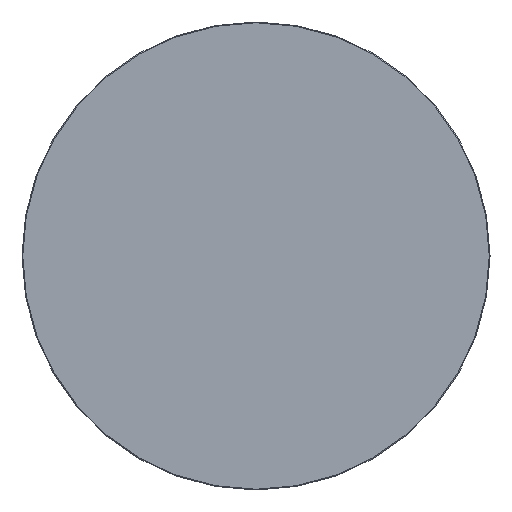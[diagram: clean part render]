
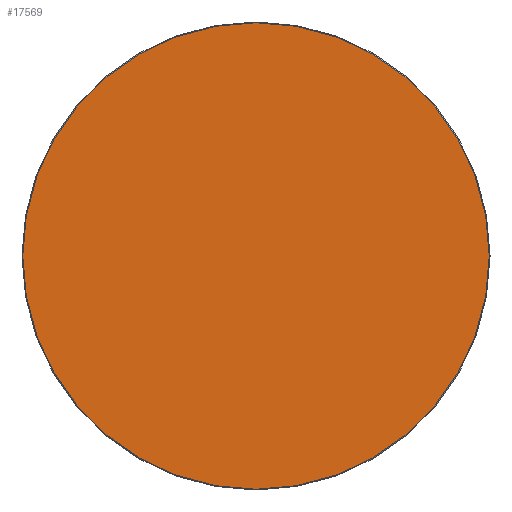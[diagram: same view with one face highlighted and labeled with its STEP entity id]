
A CAD part, top view. The second image highlights one B-rep face of the part: STEP entity #17569.
In plain terms, the highlighted planar face has unit normal (0, 0, 1).
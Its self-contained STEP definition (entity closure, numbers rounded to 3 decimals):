
#17494=CARTESIAN_POINT('',(0.,0.,20.));
#17495=DIRECTION('',(1.,0.,0.));
#17496=DIRECTION('',(0.,0.,1.));
#17497=AXIS2_PLACEMENT_3D('',#17494,#17496,#17495);
#17498=PLANE('',#17497);
#17499=CARTESIAN_POINT('',(-0.5,-448.5,20.));
#17500=VERTEX_POINT('',#17499);
#17501=CARTESIAN_POINT('',(0.5,-448.5,20.));
#17502=VERTEX_POINT('',#17501);
#17503=CARTESIAN_POINT('',(-0.5,-448.5,20.));
#17504=DIRECTION('',(1.,0.,0.));
#17505=VECTOR('',#17504,1.);
#17506=LINE('',#17503,#17505);
#17507=EDGE_CURVE('',#17500,#17502,#17506,.T.);
#17508=ORIENTED_EDGE('E105',*,*,#17507,.T.);
#17509=CARTESIAN_POINT('',(448.5,-0.5,20.));
#17510=VERTEX_POINT('',#17509);
#17511=CARTESIAN_POINT('',(0.5,-0.5,20.));
#17512=DIRECTION('',(0.,-1.,0.));
#17513=DIRECTION('',(0.,-0.,1.));
#17514=AXIS2_PLACEMENT_3D('',#17511,#17513,#17512);
#17515=CIRCLE('',#17514,448.);
#17516=EDGE_CURVE('',#17502,#17510,#17515,.T.);
#17517=ORIENTED_EDGE('E107',*,*,#17516,.T.);
#17518=CARTESIAN_POINT('',(448.5,0.5,20.));
#17519=VERTEX_POINT('',#17518);
#17520=CARTESIAN_POINT('',(448.5,-0.5,20.));
#17521=DIRECTION('',(0.,1.,0.));
#17522=VECTOR('',#17521,1.);
#17523=LINE('',#17520,#17522);
#17524=EDGE_CURVE('',#17510,#17519,#17523,.T.);
#17525=ORIENTED_EDGE('E109',*,*,#17524,.T.);
#17526=CARTESIAN_POINT('',(0.5,448.5,20.));
#17527=VERTEX_POINT('',#17526);
#17528=CARTESIAN_POINT('',(0.5,0.5,20.));
#17529=DIRECTION('',(1.,0.,0.));
#17530=DIRECTION('',(0.,0.,1.));
#17531=AXIS2_PLACEMENT_3D('',#17528,#17530,#17529);
#17532=CIRCLE('',#17531,448.);
#17533=EDGE_CURVE('',#17519,#17527,#17532,.T.);
#17534=ORIENTED_EDGE('E111',*,*,#17533,.T.);
#17535=CARTESIAN_POINT('',(-0.5,448.5,20.));
#17536=VERTEX_POINT('',#17535);
#17537=CARTESIAN_POINT('',(0.5,448.5,20.));
#17538=DIRECTION('',(-1.,0.,0.));
#17539=VECTOR('',#17538,1.);
#17540=LINE('',#17537,#17539);
#17541=EDGE_CURVE('',#17527,#17536,#17540,.T.);
#17542=ORIENTED_EDGE('E113',*,*,#17541,.T.);
#17543=CARTESIAN_POINT('',(-448.5,0.5,20.));
#17544=VERTEX_POINT('',#17543);
#17545=CARTESIAN_POINT('',(-0.5,0.5,20.));
#17546=DIRECTION('',(0.,1.,0.));
#17547=DIRECTION('',(0.,0.,1.));
#17548=AXIS2_PLACEMENT_3D('',#17545,#17547,#17546);
#17549=CIRCLE('',#17548,448.);
#17550=EDGE_CURVE('',#17536,#17544,#17549,.T.);
#17551=ORIENTED_EDGE('E115',*,*,#17550,.T.);
#17552=CARTESIAN_POINT('',(-448.5,-0.5,20.));
#17553=VERTEX_POINT('',#17552);
#17554=CARTESIAN_POINT('',(-448.5,0.5,20.));
#17555=DIRECTION('',(0.,-1.,0.));
#17556=VECTOR('',#17555,1.);
#17557=LINE('',#17554,#17556);
#17558=EDGE_CURVE('',#17544,#17553,#17557,.T.);
#17559=ORIENTED_EDGE('E117',*,*,#17558,.T.);
#17560=CARTESIAN_POINT('',(-0.5,-0.5,20.));
#17561=DIRECTION('',(-1.,0.,0.));
#17562=DIRECTION('',(0.,0.,1.));
#17563=AXIS2_PLACEMENT_3D('',#17560,#17562,#17561);
#17564=CIRCLE('',#17563,448.);
#17565=EDGE_CURVE('',#17553,#17500,#17564,.T.);
#17566=ORIENTED_EDGE('E119',*,*,#17565,.T.);
#17567=EDGE_LOOP('',(#17508,#17517,#17525,#17534,#17542,#17551,#17559,#17566));
#17568=FACE_OUTER_BOUND('',#17567,.T.);
#17569=ADVANCED_FACE('F2',(#17568),#17498,.T.);
